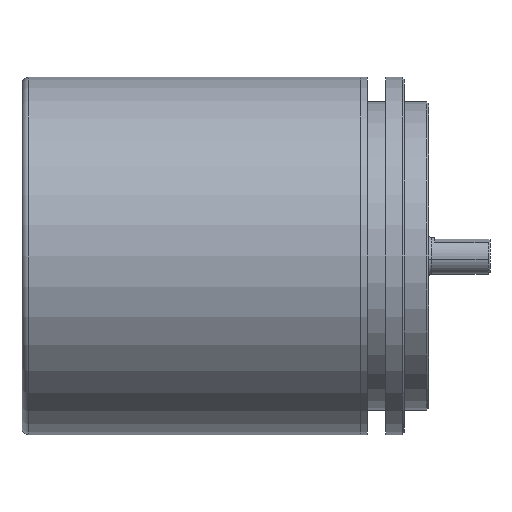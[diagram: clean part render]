
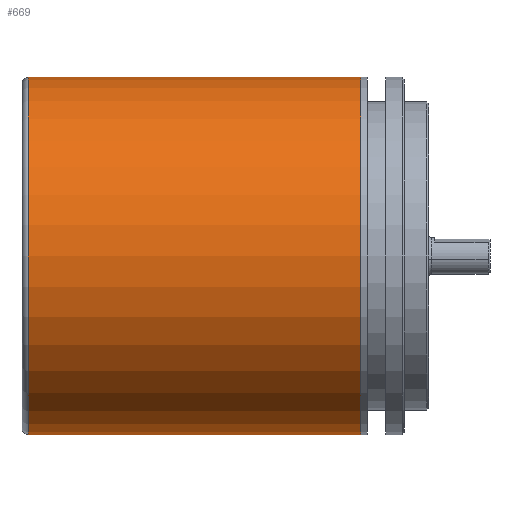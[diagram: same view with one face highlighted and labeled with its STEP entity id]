
A CAD part, front view. The second image highlights one B-rep face of the part: STEP entity #669.
In plain terms, the highlighted cylindrical face has radius 29 mm (diameter 58 mm), a partial arc.
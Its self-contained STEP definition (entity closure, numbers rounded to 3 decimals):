
#318 = EDGE_CURVE ( 'NONE', #599, #319, #2342, .T. ) ;
#319 = VERTEX_POINT ( 'NONE', #2338 ) ;
#486 = VERTEX_POINT ( 'NONE', #3124 ) ;
#488 = EDGE_CURVE ( 'NONE', #600, #486, #3123, .T. ) ;
#599 = VERTEX_POINT ( 'NONE', #3942 ) ;
#600 = VERTEX_POINT ( 'NONE', #3941 ) ;
#601 = EDGE_CURVE ( 'NONE', #600, #599, #3939, .T. ) ;
#643 = ORIENTED_EDGE ( 'NONE', *, *, #488, .T. ) ;
#644 = ORIENTED_EDGE ( 'NONE', *, *, #764, .T. ) ;
#669 = ADVANCED_FACE ( 'NONE', ( #6225 ), #6447, .T. ) ;
#670 = EDGE_LOOP ( 'NONE', ( #671, #672, #643, #644 ) ) ;
#671 = ORIENTED_EDGE ( 'NONE', *, *, #318, .F. ) ;
#672 = ORIENTED_EDGE ( 'NONE', *, *, #601, .F. ) ;
#764 = EDGE_CURVE ( 'NONE', #486, #319, #13483, .T. ) ;
#2338 = CARTESIAN_POINT ( 'NONE',  ( -39., 0., -29. ) ) ;
#2339 = DIRECTION ( 'NONE',  ( -1., 0., 0. ) ) ;
#2340 = VECTOR ( 'NONE', #2339, 1000. ) ;
#2341 = CARTESIAN_POINT ( 'NONE',  ( 15., 0., -29. ) ) ;
#2342 = LINE ( 'NONE', #2341, #2340 ) ;
#3120 = DIRECTION ( 'NONE',  ( -1., 0., 0. ) ) ;
#3121 = VECTOR ( 'NONE', #3120, 1000. ) ;
#3122 = CARTESIAN_POINT ( 'NONE',  ( 15., 0., 29. ) ) ;
#3123 = LINE ( 'NONE', #3122, #3121 ) ;
#3124 = CARTESIAN_POINT ( 'NONE',  ( -39., 0., 29. ) ) ;
#3939 = CIRCLE ( 'NONE', #4092, 29. ) ;
#3941 = CARTESIAN_POINT ( 'NONE',  ( 15., 0., 29. ) ) ;
#3942 = CARTESIAN_POINT ( 'NONE',  ( 15., 0., -29. ) ) ;
#4088 = DIRECTION ( 'NONE',  ( 0., 0., -1. ) ) ;
#4089 = DIRECTION ( 'NONE',  ( 1., 0., 0. ) ) ;
#4090 = CARTESIAN_POINT ( 'NONE',  ( 15., 0., 0. ) ) ;
#4092 = AXIS2_PLACEMENT_3D ( 'NONE', #4090, #4089, #4088 ) ;
#6225 = FACE_OUTER_BOUND ( 'NONE', #670, .T. ) ;
#6316 = DIRECTION ( 'NONE',  ( -1., 0., 0. ) ) ;
#6317 = CARTESIAN_POINT ( 'NONE',  ( 15., 0., 0. ) ) ;
#6412 = DIRECTION ( 'NONE',  ( 0., 0., 1. ) ) ;
#6447 = CYLINDRICAL_SURFACE ( 'NONE', #6493, 29. ) ;
#6493 = AXIS2_PLACEMENT_3D ( 'NONE', #6317, #6316, #6412 ) ;
#13472 = CARTESIAN_POINT ( 'NONE',  ( -39., 0., 0. ) ) ;
#13480 = DIRECTION ( 'NONE',  ( 0., 0., -1. ) ) ;
#13481 = DIRECTION ( 'NONE',  ( 1., 0., 0. ) ) ;
#13482 = AXIS2_PLACEMENT_3D ( 'NONE', #13472, #13481, #13480 ) ;
#13483 = CIRCLE ( 'NONE', #13482, 29. ) ;
